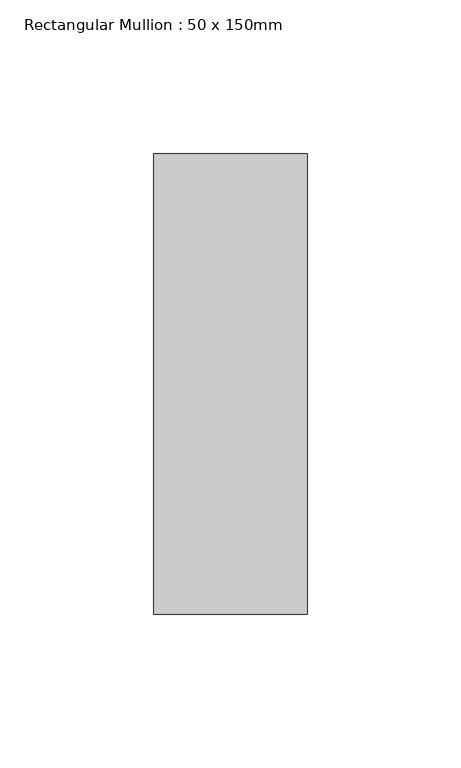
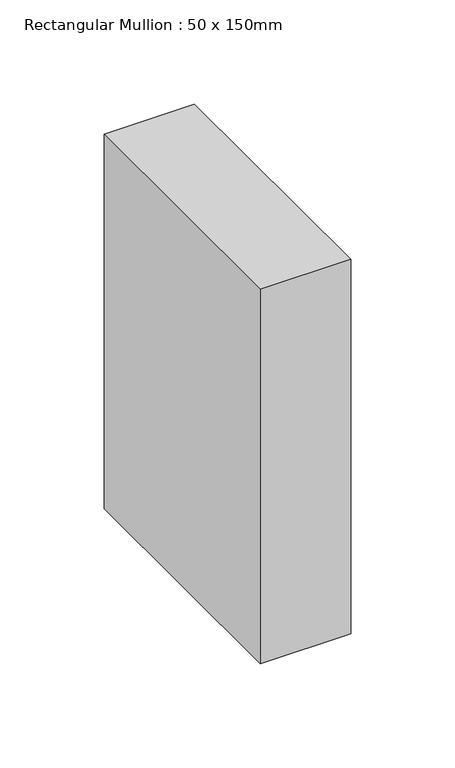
"""IFC4 building model written with IfcOpenShell, lengths in millimetres: member geometry, Rectangular Mullion : 50 x 150mm."""

from ifc_helpers import new_model, si_unit, frame, origin, place, context, project, spatial, polyline, outline, extrude, source, transform, mapped, element, save


def rectangular_mullion_50_x_150mm_21ce460e(model_context):
    return source(origin(), model_context, "Body", "SweptSolid", [
        extrude(outline(polyline([(0.0, 75.0), (0.0, -75.0), (-50.0, -75.0), (-50.0, 75.0), (0.0, 75.0)])), frame((0.0, 0.0, -219.3870406), z_axis=(0.0, 0.0, 1.0), x_axis=(1.0, 0.0, 0.0)), (0.0, 0.0, 1.0), 219.3870406),
    ])


if __name__ == "__main__":
    model = new_model("IFC4")
    model_context = context("Model", 3, world=origin())
    ifc_project = project(units=[si_unit("LENGTHUNIT", "METRE", prefix="MILLI")], contexts=[model_context])
    site = spatial("IfcSite", under=ifc_project)
    building = spatial("IfcBuilding", under=site)
    placement = place(None, origin())
    rectangular_mullion_50_x_150mm_shape = rectangular_mullion_50_x_150mm_21ce460e(model_context)
    element("IfcMember", 1, ObjectType="Rectangular Mullion : 50 x 150mm", at=placement, inside=building, context=model_context, shape_type="MappedRepresentation", body=[
        mapped(rectangular_mullion_50_x_150mm_shape, transform((0.0, 0.0, 0.0), x_axis=(1.0, 0.0, 0.0), y_axis=(0.0, 1.0, 0.0), z_axis=(0.0, 0.0, 1.0))),
    ])
    save(model, "model.ifc")
